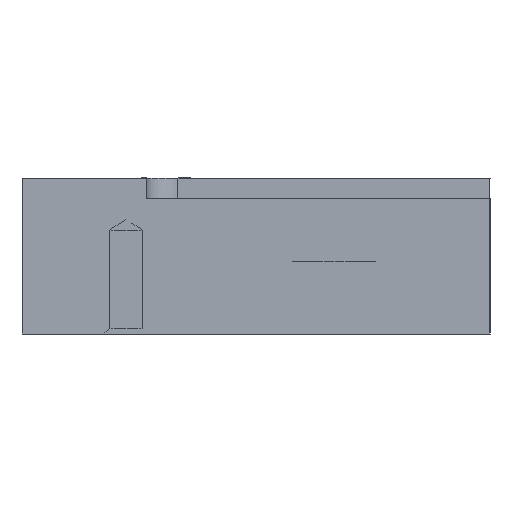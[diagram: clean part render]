
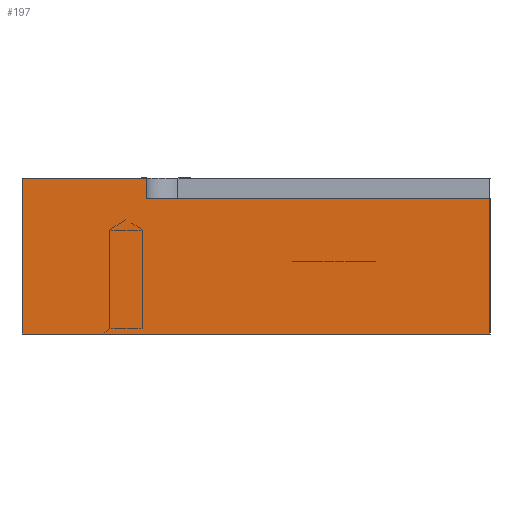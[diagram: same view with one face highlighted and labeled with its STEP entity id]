
A CAD part, left-side view. The second image highlights one B-rep face of the part: STEP entity #197.
In plain terms, the highlighted planar face has unit normal (-1, 0, 0).
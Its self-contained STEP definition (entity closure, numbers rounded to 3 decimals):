
#197=ADVANCED_FACE('',(#1455),#1457,.T.);
#1455=FACE_BOUND('',#1456,.T.);
#1456=EDGE_LOOP('',(#2615,#2616,#2617,#2618,#2619,#2620));
#1457=PLANE('',#1458);
#1458=AXIS2_PLACEMENT_3D('',#1459,#1460,#1461);
#1459=CARTESIAN_POINT('',(-538.,25.,0.));
#1460=DIRECTION('',(-1.,0.,0.));
#1461=DIRECTION('',(0.,-1.,0.));
#2615=ORIENTED_EDGE('',*,*,#3121,.T.);
#2616=ORIENTED_EDGE('',*,*,#3012,.F.);
#2617=ORIENTED_EDGE('',*,*,#3120,.F.);
#2618=ORIENTED_EDGE('',*,*,#3122,.T.);
#2619=ORIENTED_EDGE('',*,*,#3093,.T.);
#2620=ORIENTED_EDGE('',*,*,#3123,.T.);
#3012=EDGE_CURVE('',#3296,#3298,#3299,.T.);
#3093=EDGE_CURVE('',#3453,#3451,#3454,.T.);
#3120=EDGE_CURVE('',#3493,#3296,#3495,.T.);
#3121=EDGE_CURVE('',#3496,#3298,#3497,.F.);
#3122=EDGE_CURVE('',#3493,#3453,#3498,.T.);
#3123=EDGE_CURVE('',#3451,#3496,#3499,.F.);
#3296=VERTEX_POINT('',#3804);
#3298=VERTEX_POINT('',#3808);
#3299=LINE('',#3809,#3810);
#3451=VERTEX_POINT('',#4159);
#3453=VERTEX_POINT('',#4163);
#3454=LINE('',#4164,#4165);
#3493=VERTEX_POINT('',#4258);
#3495=LINE('',#4262,#4263);
#3496=VERTEX_POINT('',#4265);
#3497=LINE('',#4266,#4267);
#3498=LINE('',#4269,#4270);
#3499=LINE('',#4272,#4273);
#3804=CARTESIAN_POINT('',(-538.,25.,15.));
#3808=CARTESIAN_POINT('',(-538.,13.,15.));
#3809=CARTESIAN_POINT('',(-538.,25.,15.));
#3810=VECTOR('',#3811,1.);
#3811=DIRECTION('',(0.,-1.,0.));
#4159=CARTESIAN_POINT('',(-538.,-20.,13.));
#4163=CARTESIAN_POINT('',(-538.,-20.,0.));
#4164=CARTESIAN_POINT('',(-538.,-20.,0.));
#4165=VECTOR('',#4166,1.);
#4166=DIRECTION('',(0.,0.,1.));
#4258=CARTESIAN_POINT('',(-538.,25.,0.));
#4262=CARTESIAN_POINT('',(-538.,25.,0.));
#4263=VECTOR('',#4264,1.);
#4264=DIRECTION('',(0.,0.,1.));
#4265=CARTESIAN_POINT('',(-538.,13.,13.));
#4266=CARTESIAN_POINT('',(-538.,13.,15.));
#4267=VECTOR('',#4268,1.);
#4268=DIRECTION('',(0.,0.,-1.));
#4269=CARTESIAN_POINT('',(-538.,25.,0.));
#4270=VECTOR('',#4271,1.);
#4271=DIRECTION('',(0.,-1.,0.));
#4272=CARTESIAN_POINT('',(-538.,13.,13.));
#4273=VECTOR('',#4274,1.);
#4274=DIRECTION('',(0.,-1.,0.));
